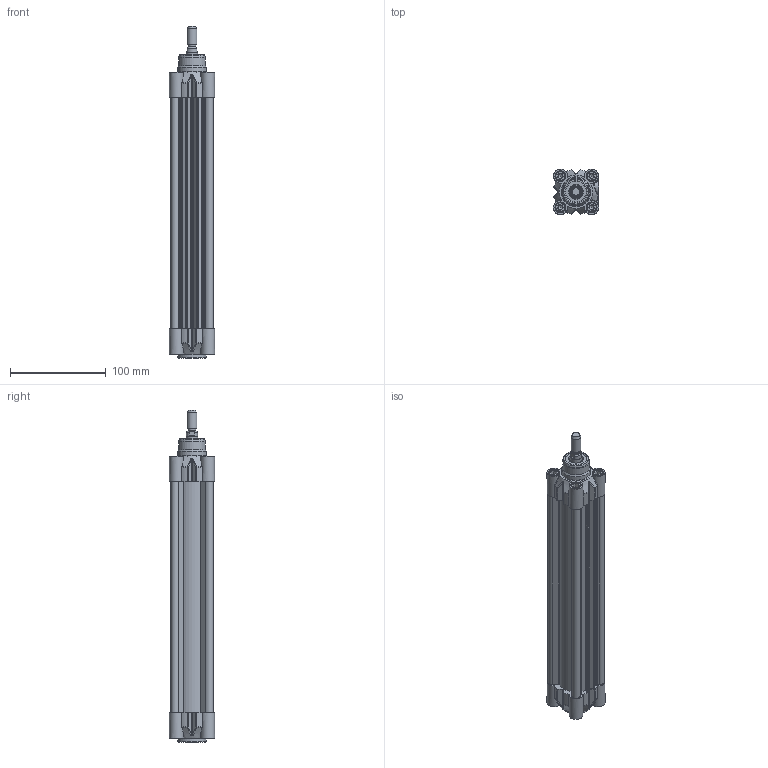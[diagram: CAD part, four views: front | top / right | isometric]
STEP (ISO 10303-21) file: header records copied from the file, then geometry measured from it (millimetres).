
FILE_DESCRIPTION(/* description */ ('CILINDRO D.E. MAGNETICO AMMORTIZZATO ISO 15552'),/* implementation_level */ '2;1');
FILE_NAME(/* name */ 'T:\Archivio Inventor\- 00 NUOVI STP PER SITO CON STELO CHE SI MUOVE\SERIE H - U\SERIE HDM\HDM032-TUBO NUOVO\HDM032.200.GS.M.stp',/* time_stamp */ '2018-07-25T14:27:11+02:00',/* author */ ('carlo.corazza'),/* organization */ (''),/* preprocessor_version */ 'ST-DEVELOPER v16.5',/* originating_system */ 'Autodesk Inventor 2017',/* authorisation */ '');
FILE_SCHEMA (('AUTOMOTIVE_DESIGN { 1 0 10303 214 3 1 1 }'));
Length unit declared in the file: millimetre
Products named in the file (5): HDM032.200.GS.M; TP; STELO-200; TA; CORPO-200
Assembly tree (4 placements, depth 2):
  HDM032.200.GS.M
    TP
    STELO-200
    TA
    CORPO-200
Bounding box: 47 x 47 x 346 mm (x, y, z)
Volume: 247609.6 mm3; surface area: 167979.5 mm2
Topology: 4 solids, 18 shells, 969 faces, 2356 edges, 1494 vertices
Faces by surface type: plane 330, cylinder 260, bspline 190, cone 86, torus 83, sphere 20
Full cylindrical faces by diameter (mm): 2 x2, 2.1 x2, 4 x2, 4.5 x2, 4.917 x8, 6 x8, 6.2 x8, 6.3 x4, 7 x2, 7.8 x4, 7.9 x3, 8 x4, 8.566 x2, 10 x9, 10.3 x8, 11.6 x1, 12 x1, 12.8 x1, 12.847 x1, 16 x1, 17 x2, 22 x3, 28 x1, 30 x2, 32 x1
Entity records: 31186 total; most frequent: CARTESIAN_POINT 9171, ORIENTED_EDGE 4162, DIRECTION 4048, EDGE_CURVE 2081, AXIS2_PLACEMENT_3D 1569, VERTEX_POINT 1436, EDGE_LOOP 1302, FACE_OUTER_BOUND 969
